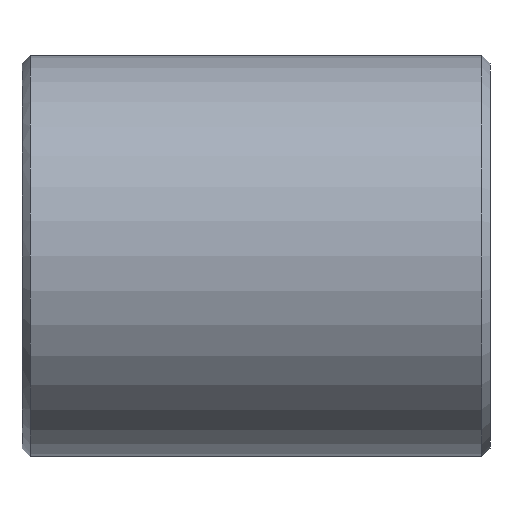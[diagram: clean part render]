
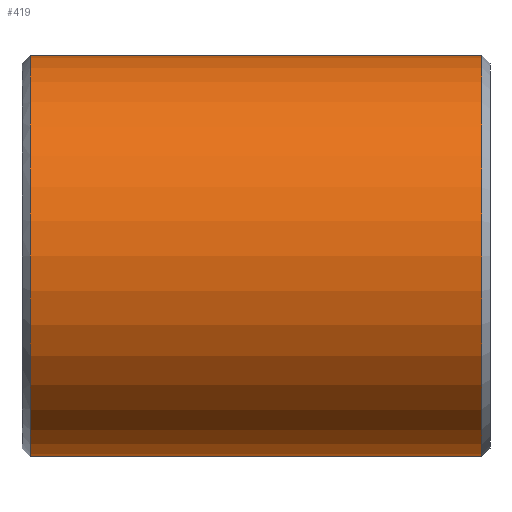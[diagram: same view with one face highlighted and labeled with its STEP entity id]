
A CAD part, front view. The second image highlights one B-rep face of the part: STEP entity #419.
In plain terms, the highlighted cylindrical face has radius 24 mm (diameter 48 mm), a partial arc.
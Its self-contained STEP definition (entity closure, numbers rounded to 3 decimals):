
#231=CARTESIAN_POINT('Vertex',(1.,0.,-24.)) ;
#238=CARTESIAN_POINT('Vertex',(1.,0.,24.)) ;
#267=CARTESIAN_POINT('Axis2P3D Location',(1.,0.,0.)) ;
#271=CARTESIAN_POINT('Vertex',(1.,-24.,0.)) ;
#274=CARTESIAN_POINT('Axis2P3D Location',(1.,0.,0.)) ;
#359=CARTESIAN_POINT('Line Origine',(56.,0.,24.)) ;
#363=CARTESIAN_POINT('Vertex',(55.,0.,24.)) ;
#377=CARTESIAN_POINT('Vertex',(55.,0.,-24.)) ;
#380=CARTESIAN_POINT('Line Origine',(56.,0.,-24.)) ;
#394=CARTESIAN_POINT('Axis2P3D Location',(56.,0.,0.)) ;
#399=CARTESIAN_POINT('Axis2P3D Location',(55.,0.,0.)) ;
#403=CARTESIAN_POINT('Vertex',(55.,-24.,0.)) ;
#406=CARTESIAN_POINT('Axis2P3D Location',(55.,0.,0.)) ;
#268=DIRECTION('Axis2P3D Direction',(1.,0.,-0.)) ;
#275=DIRECTION('Axis2P3D Direction',(1.,0.,-0.)) ;
#360=DIRECTION('Vector Direction',(-1.,0.,0.)) ;
#381=DIRECTION('Vector Direction',(-1.,0.,0.)) ;
#395=DIRECTION('Axis2P3D Direction',(-1.,-0.,-0.)) ;
#396=DIRECTION('Axis2P3D XDirection',(0.,0.,-1.)) ;
#400=DIRECTION('Axis2P3D Direction',(-1.,-0.,-0.)) ;
#407=DIRECTION('Axis2P3D Direction',(-1.,-0.,-0.)) ;
#269=AXIS2_PLACEMENT_3D('Circle Axis2P3D',#267,#268,$) ;
#276=AXIS2_PLACEMENT_3D('Circle Axis2P3D',#274,#275,$) ;
#397=AXIS2_PLACEMENT_3D('Cylinder Axis2P3D',#394,#395,#396) ;
#401=AXIS2_PLACEMENT_3D('Circle Axis2P3D',#399,#400,$) ;
#408=AXIS2_PLACEMENT_3D('Circle Axis2P3D',#406,#407,$) ;
#412=ORIENTED_EDGE('',*,*,#384,.T.) ;
#413=ORIENTED_EDGE('',*,*,#405,.F.) ;
#414=ORIENTED_EDGE('',*,*,#410,.F.) ;
#415=ORIENTED_EDGE('',*,*,#365,.T.) ;
#416=ORIENTED_EDGE('',*,*,#278,.T.) ;
#417=ORIENTED_EDGE('',*,*,#273,.T.) ;
#361=VECTOR('Line Direction',#360,1.) ;
#382=VECTOR('Line Direction',#381,1.) ;
#419=ADVANCED_FACE('352-40X56',(#418),#398,.T.) ;
#270=CIRCLE('generated circle',#269,24.) ;
#277=CIRCLE('generated circle',#276,24.) ;
#402=CIRCLE('generated circle',#401,24.) ;
#409=CIRCLE('generated circle',#408,24.) ;
#398=CYLINDRICAL_SURFACE('generated cylinder',#397,24.) ;
#273=EDGE_CURVE('',#272,#232,#270,.T.) ;
#278=EDGE_CURVE('',#239,#272,#277,.T.) ;
#365=EDGE_CURVE('',#364,#239,#362,.T.) ;
#384=EDGE_CURVE('',#232,#378,#383,.F.) ;
#405=EDGE_CURVE('',#404,#378,#402,.F.) ;
#410=EDGE_CURVE('',#364,#404,#409,.F.) ;
#411=EDGE_LOOP('',(#412,#413,#414,#415,#416,#417)) ;
#418=FACE_OUTER_BOUND('',#411,.T.) ;
#362=LINE('Line',#359,#361) ;
#383=LINE('Line',#380,#382) ;
#232=VERTEX_POINT('',#231) ;
#239=VERTEX_POINT('',#238) ;
#272=VERTEX_POINT('',#271) ;
#364=VERTEX_POINT('',#363) ;
#378=VERTEX_POINT('',#377) ;
#404=VERTEX_POINT('',#403) ;
